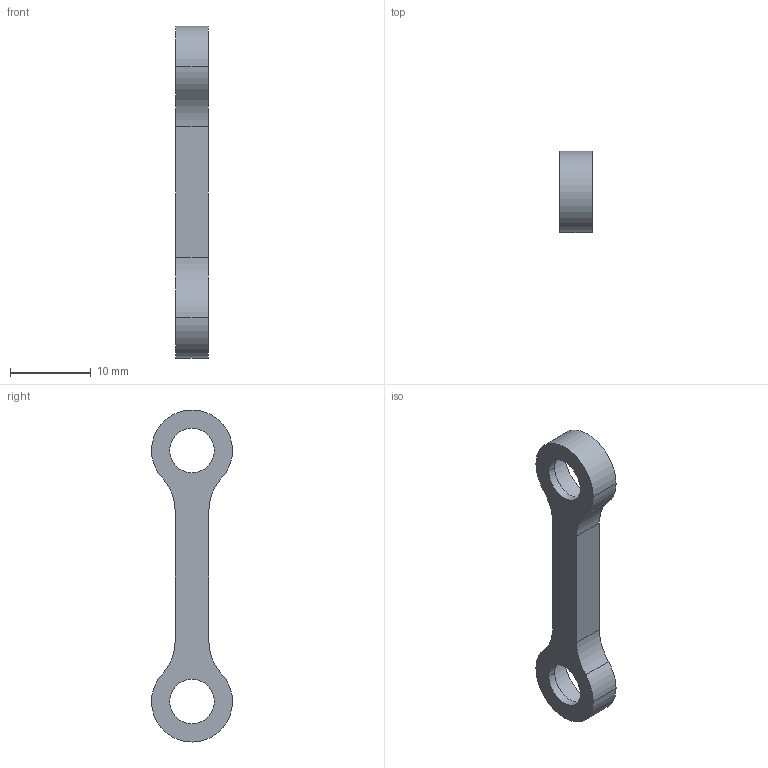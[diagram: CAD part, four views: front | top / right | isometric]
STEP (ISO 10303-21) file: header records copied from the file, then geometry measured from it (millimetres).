
FILE_DESCRIPTION (( 'STEP AP203' ), '1' );
FILE_NAME ('__2-1.stp_Défaut_sldprt.STEP', '2024-11-30T15:38:24', ( '' ), ( '' ), 'SwSTEP 2.0', 'SolidWorks 2023', '' );
FILE_SCHEMA (( 'CONFIG_CONTROL_DESIGN' ));
Length unit declared in the file: millimetre
Products named in the file (1): __2-1.stp_Défaut_sldprt
Bounding box: 4 x 10 x 41 mm (x, y, z)
Volume: 650.7 mm3; surface area: 975.7 mm2
Topology: 1 solids, 1 shells, 24 faces, 60 edges, 40 vertices
Faces by surface type: cylinder 18, plane 6
Entity records: 825 total; most frequent: DIRECTION 146, CARTESIAN_POINT 125, ORIENTED_EDGE 120, AXIS2_PLACEMENT_3D 61, EDGE_CURVE 60, VERTEX_POINT 40, CIRCLE 36, EDGE_LOOP 30
